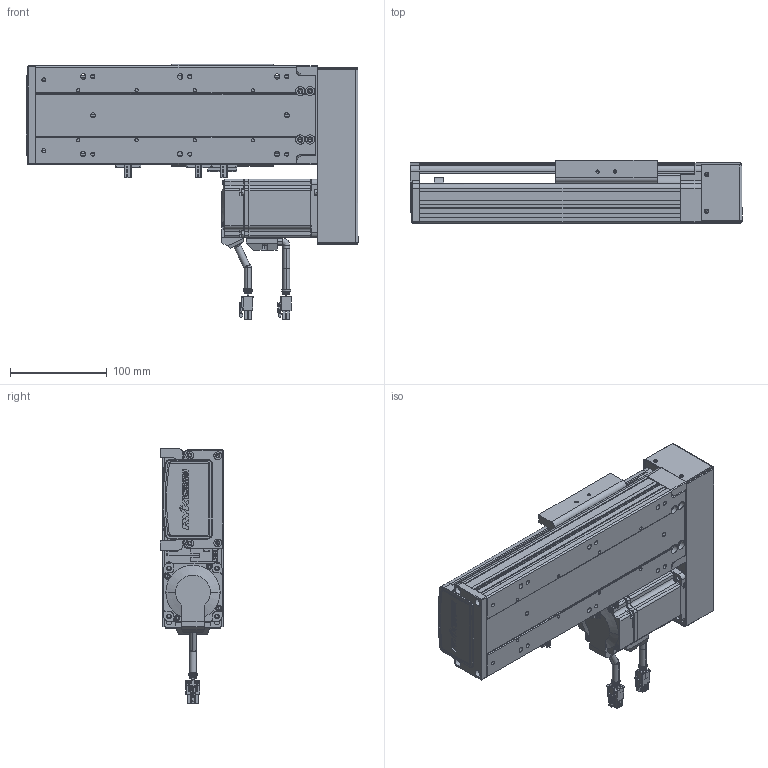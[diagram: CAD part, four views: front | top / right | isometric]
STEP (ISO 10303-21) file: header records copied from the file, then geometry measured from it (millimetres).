
FILE_DESCRIPTION (( 'STEP AP203' ), '1' );
FILE_NAME ('RY100S-L1620-300-RK(15双轨).SLDASM_100.step', '2021-02-20T08:47:31', ( '盈信电脑' ), ( '东莞市道滘镇水果街19号' ), 'SwSTEP 2.0', 'SolidWorks 2012', '' );
FILE_SCHEMA (( 'CONFIG_CONTROL_DESIGN' ));
Length unit declared in the file: millimetre
Products named in the file (25): RY100S-L1620-300-RK(15邧寢).SLDASM_100; RY100S铝滑块（15双轨单滑块）底组装导轨; 3M30喘15遵; 蚾饜极1^RY100S-L1620-300-RK(15邧寢); 侂狟200W萇儂; 6; 4; 7; 5; 2; 3; 1; 肮祭湍3M遵15笚酗282; RY80肮祭湍芢雄輸; RY80肮祭湍覃踡啣; RY100S转折电机安装板（15双轨）; RY100S左右折电机罩（15双轨）; RY100綴裔啣; RY100S转折电机端支撑座(15双轨); 滅袉蝶18-24; RY100俋离覜茼え; 滅袉蝶18-10; 覜茼ん672; RY100S-300-LK转折型材上盖(15双轨)_100; RY100S-350-LK型材底座(低组15双轨)_100
Assembly tree (27 placements, depth 4):
  RY100S-L1620-300-RK(15邧寢).SLDASM_100
    RY100S-350-LK型材底座(低组15双轨)_100
    RY100S-300-LK转折型材上盖(15双轨)_100
    覜茼ん672  x3
    滅袉蝶18-10
    RY100俋离覜茼え
    RY100S转折电机端支撑座(15双轨)
    滅袉蝶18-24
    RY100綴裔啣
    蚾饜极1^RY100S-L1620-300-RK(15邧寢)
      RY80肮祭湍覃踡啣
      RY80肮祭湍芢雄輸  x2
      RY100S左右折电机罩（15双轨）
      RY100S转折电机安装板（15双轨）
      肮祭湍3M遵15笚酗282
      侂狟200W萇儂
        1
        2
        3
        4
        5
        6
        7
      3M30喘15遵
    RY100S铝滑块（15双轨单滑块）底组装导轨
Bounding box: 342.5 x 65 x 263.3 mm (x, y, z)
Volume: 1270936.7 mm3; surface area: 454630.8 mm2
Topology: 25 solids, 25 shells, 3064 faces, 8205 edges, 5280 vertices
Faces by surface type: plane 1656, cylinder 1125, cone 169, bspline 114
Entity records: 98728 total; most frequent: CARTESIAN_POINT 24247, ORIENTED_EDGE 15114, DIRECTION 14748, EDGE_CURVE 7557, AXIS2_PLACEMENT_3D 4987, VERTEX_POINT 4916, VECTOR 4774, LINE 4774
